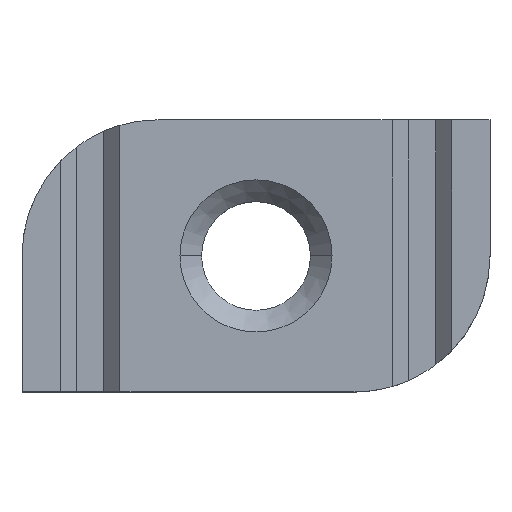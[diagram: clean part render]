
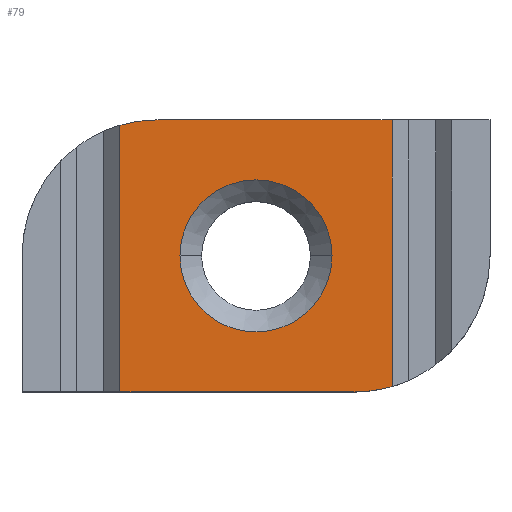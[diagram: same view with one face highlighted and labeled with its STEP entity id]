
A CAD part, top view. The second image highlights one B-rep face of the part: STEP entity #79.
In plain terms, the highlighted planar face has unit normal (0, 0, 1).
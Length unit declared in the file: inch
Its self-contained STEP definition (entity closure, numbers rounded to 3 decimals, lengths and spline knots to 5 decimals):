
#79=ADVANCED_FACE('',(#156,#157),#158,.F.);
#156=FACE_OUTER_BOUND('',#231,.T.);
#157=FACE_BOUND('',#232,.T.);
#158=PLANE('',#233);
#231=EDGE_LOOP('',(#392,#393,#394,#395,#396,#397));
#232=EDGE_LOOP('',(#398,#399));
#233=AXIS2_PLACEMENT_3D('',#400,#401,#402);
#392=ORIENTED_EDGE('',*,*,#502,.T.);
#393=ORIENTED_EDGE('',*,*,#523,.T.);
#394=ORIENTED_EDGE('',*,*,#507,.F.);
#395=ORIENTED_EDGE('',*,*,#493,.T.);
#396=ORIENTED_EDGE('',*,*,#486,.T.);
#397=ORIENTED_EDGE('',*,*,#526,.F.);
#398=ORIENTED_EDGE('',*,*,#531,.F.);
#399=ORIENTED_EDGE('',*,*,#466,.F.);
#400=CARTESIAN_POINT('',(0.67717,0.3937,0.31496));
#401=DIRECTION('',(0.0,0.0,-1.0));
#402=DIRECTION('',(1.0,0.0,0.0));
#466=EDGE_CURVE('',#550,#552,#553,.T.);
#486=EDGE_CURVE('',#575,#585,#587,.T.);
#493=EDGE_CURVE('',#595,#575,#597,.T.);
#502=EDGE_CURVE('',#611,#609,#612,.T.);
#507=EDGE_CURVE('',#595,#619,#620,.T.);
#523=EDGE_CURVE('',#609,#619,#642,.T.);
#526=EDGE_CURVE('',#611,#585,#645,.T.);
#531=EDGE_CURVE('',#552,#550,#650,.T.);
#550=VERTEX_POINT('',#671);
#552=VERTEX_POINT('',#674);
#553=CIRCLE('',#675,0.21998);
#575=VERTEX_POINT('',#704);
#585=VERTEX_POINT('',#719);
#587=LINE('',#722,#723);
#595=VERTEX_POINT('',#733);
#597=LINE('',#735,#736);
#609=VERTEX_POINT('',#751);
#611=VERTEX_POINT('',#754);
#612=LINE('',#755,#756);
#619=VERTEX_POINT('',#764);
#620=CIRCLE('',#765,0.3937);
#642=LINE('',#794,#795);
#645=CIRCLE('',#798,0.3937);
#650=CIRCLE('',#804,0.21998);
#671=CARTESIAN_POINT('',(0.89715,0.3937,0.31496));
#674=CARTESIAN_POINT('',(0.45719,0.3937,0.31496));
#675=AXIS2_PLACEMENT_3D('',#823,#824,#825);
#704=CARTESIAN_POINT('',(0.28346,0.,0.31496));
#719=CARTESIAN_POINT('',(0.96063,0.,0.31496));
#722=CARTESIAN_POINT('',(0.0,0.,0.31496));
#723=VECTOR('',#848,0.3937);
#733=CARTESIAN_POINT('',(0.28346,0.77165,0.31496));
#735=CARTESIAN_POINT('',(0.28346,0.19685,0.31496));
#736=VECTOR('',#857,0.3937);
#751=CARTESIAN_POINT('',(1.07087,0.7874,0.31496));
#754=CARTESIAN_POINT('',(1.07087,0.01575,0.31496));
#755=CARTESIAN_POINT('',(1.07087,0.19685,0.31496));
#756=VECTOR('',#865,0.3937);
#764=CARTESIAN_POINT('',(0.3937,0.7874,0.31496));
#765=AXIS2_PLACEMENT_3D('',#873,#874,#875);
#794=CARTESIAN_POINT('',(1.35433,0.7874,0.31496));
#795=VECTOR('',#898,0.3937);
#798=AXIS2_PLACEMENT_3D('',#902,#903,#904);
#804=AXIS2_PLACEMENT_3D('',#909,#910,#911);
#823=CARTESIAN_POINT('',(0.67717,0.3937,0.31496));
#824=DIRECTION('',(-0.0,0.0,1.0));
#825=DIRECTION('',(1.0,0.0,0.0));
#848=DIRECTION('',(1.0,0.0,0.0));
#857=DIRECTION('',(0.0,-1.0,0.0));
#865=DIRECTION('',(0.0,1.0,0.0));
#873=CARTESIAN_POINT('',(0.3937,0.3937,0.31496));
#874=DIRECTION('',(0.0,0.0,-1.0));
#875=DIRECTION('',(-0.707,0.707,0.0));
#898=DIRECTION('',(-1.0,0.0,0.0));
#902=CARTESIAN_POINT('',(0.96063,0.3937,0.31496));
#903=DIRECTION('',(0.0,0.0,-1.0));
#904=DIRECTION('',(0.707,-0.707,0.0));
#909=CARTESIAN_POINT('',(0.67717,0.3937,0.31496));
#910=DIRECTION('',(-0.0,0.0,1.0));
#911=DIRECTION('',(1.0,0.0,0.0));
